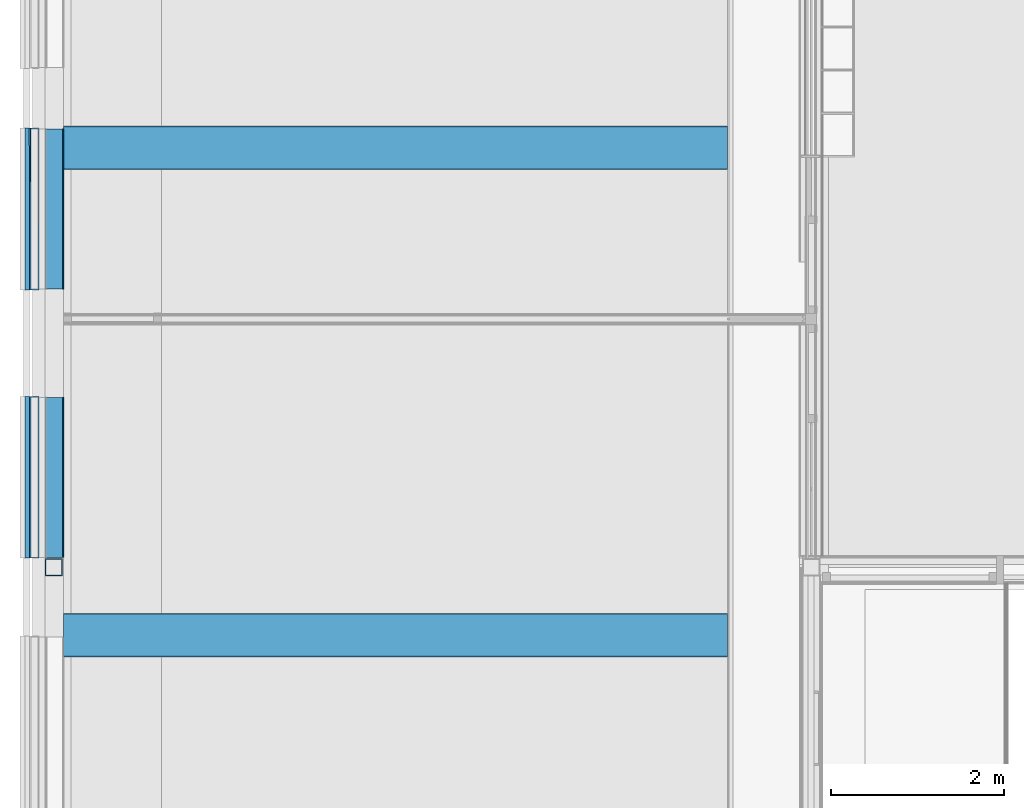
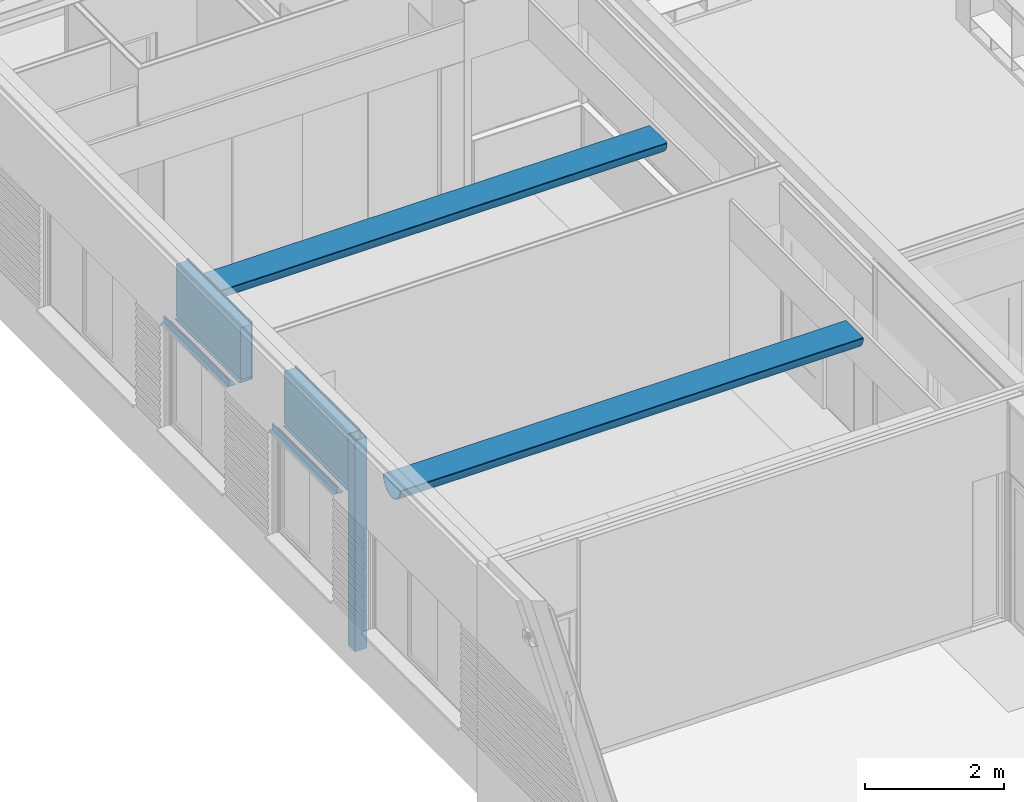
# One storey, part 56 of 137: 15 building element parts, 7 elements without a shape of their own.
"""IFC2X3 building model written with IfcOpenShell, lengths in millimetres."""

import ifcopenshell
import ifcopenshell.guid

model = None  # the IFC model being written
_history = None  # IfcOwnerHistory: only IFC2X3 demands one
_inside = {}  # id of a spatial element -> (the spatial element, [elements in it])
_under = {}  # id of a project, library or spatial element -> (it, [spatial elements below it])
_declared = {}  # id of a project -> (the project, [libraries it declares])
_typed = {}  # id of a type object -> (the type object, [elements of that type])
_made_of = {}  # id of a material, layer set ... -> (it, [elements and type objects made of it])


def new_model(schema):
    """Start an empty IFC model of exactly this schema.

    Asked for "IFC4X3", IfcOpenShell would pick the latest addendum, in which some entities
    have other attributes; the version numbers below select the first issue.
    IFC2X3 requires an IfcOwnerHistory on every rooted entity: one is made here for all.
    """
    global model, _history
    if schema == "IFC4X3":
        model = ifcopenshell.file(schema_version=(4, 3, 0, 0))
    else:
        model = ifcopenshell.file(schema=schema)
    _inside.clear()
    _under.clear()
    _declared.clear()
    _typed.clear()
    _made_of.clear()
    _history = None
    if model.schema == "IFC2X3":
        org = make("IfcOrganization", Name="unknown")
        user = make(
            "IfcPersonAndOrganization",
            ThePerson=make("IfcPerson", FamilyName="unknown"),
            TheOrganization=org,
        )
        app = make(
            "IfcApplication",
            ApplicationDeveloper=org,
            Version="unknown",
            ApplicationFullName="unknown",
            ApplicationIdentifier="unknown",
        )
        _history = make(
            "IfcOwnerHistory",
            OwningUser=user,
            OwningApplication=app,
            ChangeAction="ADDED",
            CreationDate=0,
        )
    return model


def make(cls, **values):
    """One entity of the class cls with the attributes given. An attribute that is None is left unset."""
    return model.create_entity(
        cls, **{name: value for name, value in values.items() if value is not None}
    )


def entity(cls, *values):
    """Any entity or typed value of the class cls, its attributes in the order of the schema. None: left unset."""
    e = model.create_entity(cls)
    for i, value in enumerate(values):
        if value is not None:
            e[i] = value
    return e


def rooted(cls, **values):
    """An entity with a GlobalId (a new one), such as an element, a storey or a relation."""
    return make(cls, GlobalId=ifcopenshell.guid.new(), OwnerHistory=_history, **values)


def si_unit(unit_type, name, prefix=None):
    """IfcSIUnit, for example si_unit("LENGTHUNIT", "METRE", prefix="MILLI")."""
    return make("IfcSIUnit", UnitType=unit_type, Prefix=prefix, Name=name)


def converted_unit(unit_type, name, factor, base, dimensions=None, offset=None):
    """IfcConversionBasedUnit, such as the inch: factor (a typed value) times the base unit."""
    return make(
        "IfcConversionBasedUnit"
        if offset is None
        else "IfcConversionBasedUnitWithOffset",
        ConversionOffset=offset,
        Dimensions=None
        if dimensions is None
        else entity("IfcDimensionalExponents", *dimensions),
        UnitType=unit_type,
        Name=name,
        ConversionFactor=make(
            "IfcMeasureWithUnit", ValueComponent=factor, UnitComponent=base
        ),
    )


def derived_unit(unit_type, elements):
    """IfcDerivedUnit: a product of units, each with its exponent."""
    return make(
        "IfcDerivedUnit",
        Elements=[
            make("IfcDerivedUnitElement", Unit=unit, Exponent=power)
            for unit, power in elements
        ],
        UnitType=unit_type,
    )


def money_unit(currency):
    """IfcMonetaryUnit."""
    return make("IfcMonetaryUnit", Currency=currency)


def assignment(units):
    """IfcUnitAssignment: the units of a project."""
    return None if units is None else make("IfcUnitAssignment", Units=units)


def point(xyz):
    """IfcCartesianPoint."""
    return None if xyz is None else make("IfcCartesianPoint", Coordinates=xyz)


def direction(xyz):
    """IfcDirection."""
    return None if xyz is None else make("IfcDirection", DirectionRatios=xyz)


def frame(location, z_axis=None, x_axis=None):
    """IfcAxis2Placement3D, a coordinate frame: its origin and axes. An axis left out is left unset."""
    return make(
        "IfcAxis2Placement3D",
        Location=point(location),
        Axis=direction(z_axis),
        RefDirection=direction(x_axis),
    )


def origin_with_axes():
    """The frame at (0, 0, 0) with the z axis (0, 0, 1) and the x axis (1, 0, 0) written out."""
    return frame((0.0, 0.0, 0.0), z_axis=(0.0, 0.0, 1.0), x_axis=(1.0, 0.0, 0.0))


def place(relative_to, where):
    """IfcLocalPlacement: puts the frame where relative to a parent placement (None: the world)."""
    return make(
        "IfcLocalPlacement", PlacementRelTo=relative_to, RelativePlacement=where
    )


def context(
    kind, dimensions, precision=None, world=None, true_north=None, identifier=None
):
    """IfcGeometricRepresentationContext, for example the 3D "Model" context."""
    return make(
        "IfcGeometricRepresentationContext",
        ContextIdentifier=identifier,
        ContextType=kind,
        CoordinateSpaceDimension=dimensions,
        Precision=precision,
        WorldCoordinateSystem=world,
        TrueNorth=true_north,
    )


def subcontext(parent, identifier, kind, view, scale=None):
    """IfcGeometricRepresentationSubContext, for example "Body" below "Model"."""
    return make(
        "IfcGeometricRepresentationSubContext",
        ContextIdentifier=identifier,
        ContextType=kind,
        ParentContext=parent,
        TargetScale=scale,
        TargetView=view,
    )


def project(units=None, contexts=None):
    """IfcProject with its units and contexts."""
    return rooted(
        "IfcProject",
        Name="project",
        RepresentationContexts=contexts,
        UnitsInContext=assignment(units),
    )


def spatial(cls, under=None, at=None, **own):
    """A site, building, storey or space (cls), placed at a placement, below another one or the project."""
    s = rooted(cls, ObjectPlacement=at, **own)
    if under is not None:
        _under.setdefault(under.id(), (under, []))[1].append(s)
    return s


def faces_of(points, faces, orient=None, outer=None):
    """IfcFace entities. A face is a list of loops; a loop is a list of indices into points, from 0.

    orient and outer hold one flag for each loop. By default every Orientation is true, the
    first loop of a face is its IfcFaceOuterBound and the others are IfcFaceBound.
    """
    made = []
    for i, loops in enumerate(faces):
        bounds = []
        for j, loop in enumerate(loops):
            is_outer = j == 0 if outer is None else outer[i][j]
            bounds.append(
                make(
                    "IfcFaceOuterBound" if is_outer else "IfcFaceBound",
                    Bound=make("IfcPolyLoop", Polygon=[points[k] for k in loop]),
                    Orientation=True if orient is None else orient[i][j],
                )
            )
        made.append(make("IfcFace", Bounds=bounds))
    return made


def faceted_brep(points, faces, orient=None, outer=None, voids=None):
    """IfcFacetedBrep: a solid bounded by flat faces; with voids (closed shells), ...WithVoids."""
    shared = [point(p) for p in points]
    hull = make("IfcClosedShell", CfsFaces=faces_of(shared, faces, orient, outer))
    if voids is None:
        return make("IfcFacetedBrep", Outer=hull)
    return make(
        "IfcFacetedBrepWithVoids",
        Outer=hull,
        Voids=[
            make(cls, CfsFaces=faces_of(shared, fs, o, b)) for cls, fs, o, b in voids
        ],
    )


def shape(context_of_items, identifier, shape_type, items):
    """IfcShapeRepresentation: the items that make up one representation, for example the "Body"."""
    return make(
        "IfcShapeRepresentation",
        ContextOfItems=context_of_items,
        RepresentationIdentifier=identifier,
        RepresentationType=shape_type,
        Items=items,
    )


def material(Name=None, Category=None):
    """IfcMaterial."""
    return make("IfcMaterial", Name=Name, Category=Category)


def made_of(thing, what):
    """Note that an element or type object is made of a material, layer set ...; save() writes the relation."""
    if what is not None:
        _made_of.setdefault(what.id(), (what, []))[1].append(thing)
    return thing


def type_object(cls, material=None, **own):
    """A type object (cls), such as IfcWallType, which elements share."""
    return made_of(rooted(cls, **own), material)


def element(
    cls,
    number,
    at=None,
    inside=None,
    cuts=None,
    type_object=None,
    material=None,
    context=None,
    identifier="Body",
    shape_type=None,
    held_by="IfcProductDefinitionShape",
    body=None,
    shapes=None,
    **own,
):
    """One element of the class cls, such as IfcWall. Its Tag is "e" and its number.

    at: its placement. inside: the storey or other place that contains it. cuts: it is an
    opening in that element (IfcRelVoidsElement). A single representation is given by context,
    identifier, shape_type and body (its items); several are given by shapes. held_by: the class
    of the entity that holds the representations. save() writes the other relations.
    """
    e = rooted(cls, Tag="e%d" % number, ObjectPlacement=at, **own)
    if body is not None:
        shapes = [shape(context, identifier, shape_type, body)]
    if shapes is not None:
        e.Representation = make(held_by, Representations=shapes)
    if inside is not None:
        _inside.setdefault(inside.id(), (inside, []))[1].append(e)
    if cuts is not None:
        rooted(
            "IfcRelVoidsElement", RelatingBuildingElement=cuts, RelatedOpeningElement=e
        )
    if type_object is not None:
        _typed.setdefault(type_object.id(), (type_object, []))[1].append(e)
    return made_of(e, material)


def aggregate(whole, parts):
    """IfcRelAggregates: a whole, such as a stair, and the parts it consists of."""
    return rooted("IfcRelAggregates", RelatingObject=whole, RelatedObjects=parts)


def save(model, path):
    """Write the relations noted so far, then the file.

    IfcRelAggregates (storeys below a building ...), IfcRelContainedInSpatialStructure (elements
    in a storey), IfcRelDefinesByType, IfcRelAssociatesMaterial and IfcRelDeclares: one each for
    every whole, place, type object, material and project.
    """
    for whole, parts in _under.values():
        aggregate(whole, parts)
    for where, things in _inside.values():
        rooted(
            "IfcRelContainedInSpatialStructure",
            RelatedElements=things,
            RelatingStructure=where,
        )
    for kind, things in _typed.values():
        rooted("IfcRelDefinesByType", RelatedObjects=things, RelatingType=kind)
    for what, things in _made_of.values():
        rooted("IfcRelAssociatesMaterial", RelatedObjects=things, RelatingMaterial=what)
    for by, libraries in _declared.values():
        rooted("IfcRelDeclares", RelatingContext=by, RelatedDefinitions=libraries)
    model.write(path)


model = new_model("IFC2X3")

# Units and contexts
model_context = context("Model", 3, precision=0.01, world=origin_with_axes(), true_north=direction((0.0, 1.0)))
body_context = subcontext(model_context, "Body", "Model", "MODEL_VIEW")
ifc_project = project(units=[si_unit("LENGTHUNIT", "METRE", prefix="MILLI"), si_unit("AREAUNIT", "SQUARE_METRE"), si_unit("VOLUMEUNIT", "CUBIC_METRE"), converted_unit("PLANEANGLEUNIT", "DEGREE", entity("IfcPlaneAngleMeasure", 0.0174532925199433), si_unit("PLANEANGLEUNIT", "RADIAN"), dimensions=[0, 0, 0, 0, 0, 0, 0]), money_unit("EUR"), converted_unit("TIMEUNIT", "Year", entity("IfcTimeMeasure", 31556926.0), si_unit("TIMEUNIT", "SECOND"), dimensions=[0, 0, 1, 0, 0, 0, 0]), si_unit("MASSUNIT", "GRAM", prefix="KILO"), si_unit("THERMODYNAMICTEMPERATUREUNIT", "DEGREE_CELSIUS"), si_unit("LUMINOUSINTENSITYUNIT", "LUMEN"), si_unit("ENERGYUNIT", "JOULE", prefix="MEGA"), derived_unit("THERMALCONDUCTANCEUNIT", [(si_unit("POWERUNIT", "WATT"), 1), (si_unit("LENGTHUNIT", "METRE"), -1), (si_unit("THERMODYNAMICTEMPERATUREUNIT", "KELVIN"), -1)]), derived_unit("SPECIFICHEATCAPACITYUNIT", [(si_unit("ENERGYUNIT", "JOULE"), 1), (si_unit("MASSUNIT", "GRAM", prefix="KILO"), -1), (si_unit("THERMODYNAMICTEMPERATUREUNIT", "KELVIN"), -1)]), derived_unit("MASSDENSITYUNIT", [(si_unit("MASSUNIT", "GRAM", prefix="KILO"), 1), (si_unit("VOLUMEUNIT", "CUBIC_METRE"), -1)])], contexts=[model_context])

# Site, building, storey
site_placement = place(None, origin_with_axes())
site = spatial("IfcSite", under=ifc_project, at=site_placement, Name="Site", CompositionType="ELEMENT")
building_placement = place(site_placement, origin_with_axes())
building = spatial("IfcBuilding", under=site, at=building_placement, Name="Naam gebouw", CompositionType="ELEMENT")
storey_placement = place(building_placement, frame((0.0, 0.0, 3960.0), z_axis=(0.0, 0.0, 1.0), x_axis=(1.0, 0.0, 0.0)))
storey = spatial("IfcBuildingStorey", under=building, at=storey_placement, Name="1e verdieping", CompositionType="ELEMENT", Elevation=3960.0)

# Column, building element part
column_type = type_object("IfcColumnType", Name="200X200X10 200 x 200", PredefinedType="COLUMN")
column_placement = place(storey_placement, frame((99.99999999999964, 10810.00011055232, -100.0000000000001), z_axis=(0.0, 0.0, 1.0), x_axis=(1.0, 0.0, 0.0)))
column = element("IfcColumn", 1, at=column_placement, inside=storey, type_object=column_type, Name="28_Kolom-x", ObjectType="COLUMN")
ifc_material_1 = material(Name="Metaal - Staal C")
building_element_part_1_placement = place(column_placement, origin_with_axes())
building_element_part_1 = element("IfcBuildingElementPart", 2, at=building_element_part_1_placement, material=ifc_material_1, Name="Metaal - Staal C", context=body_context, shape_type="Brep", body=[
    faceted_brep([(-100.0, -99.99999999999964, 0.0), (100.0, -99.99999999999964, 0.0), (100.0, -99.99999999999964, 3699.999999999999), (-100.0, -99.99999999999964, 3699.999999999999), (-100.0, 99.99999999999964, 0.0), (100.0, 99.99999999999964, 0.0), (-90.00000000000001, -89.99999999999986, 0.0), (90.00000000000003, -89.99999999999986, 0.0), (90.00000000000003, 89.99999999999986, 0.0), (-90.00000000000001, 89.99999999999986, 0.0), (100.0, 99.99999999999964, 3699.999999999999), (-100.0, 99.99999999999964, 3699.999999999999), (-90.00000000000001, -89.99999999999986, 3699.999999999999), (-90.00000000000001, 89.99999999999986, 3699.999999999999), (90.00000000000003, 89.99999999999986, 3699.999999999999), (90.00000000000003, -89.99999999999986, 3699.999999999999)], [[[0, 1, 2, 3]], [[0, 4, 5, 1], [6, 7, 8, 9]], [[1, 5, 10, 2]], [[3, 2, 10, 11], [12, 13, 14, 15]], [[4, 0, 3, 11]], [[5, 4, 11, 10]], [[7, 6, 12, 15]], [[8, 7, 15, 14]], [[9, 8, 14, 13]], [[6, 9, 13, 12]]]),
])
aggregate(column, [building_element_part_1])

# Beam, building element parts
beam_type_1 = type_object("IfcBeamType", Name="41 Latei/geveldrager 158 x 112", PredefinedType="BEAM")
beam_1_placement = place(storey_placement, frame((-180.0000000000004, 14014.99980396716, 2610.0), z_axis=(0.0, 0.0, 1.0), x_axis=(0.9999982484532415, 0.001871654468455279, 0.0)))
beam_1 = element("IfcBeam", 3, at=beam_1_placement, inside=storey, type_object=beam_type_1, Name="_Regenwaterafvoer-x", ObjectType="BEAM")
building_element_part_2_placement = place(beam_1_placement, origin_with_axes())
building_element_part_2 = element("IfcBuildingElementPart", 4, at=building_element_part_2_placement, material=ifc_material_1, Name="Metaal - Staal C", context=body_context, shape_type="Brep", body=[
    faceted_brep([(-49.99999999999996, 1870.003282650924, 6.55651533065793e-07), (-49.99999999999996, 1870.003282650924, -3.000000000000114), (-49.99999999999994, 0.0, -3.000000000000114), (-49.99999999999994, 0.0, 6.55651533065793e-07), (-5.960465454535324e-08, 1870.003282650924, 6.55651533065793e-07), (-5.960468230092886e-08, 1870.003282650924, 99.3417707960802), (16.54654975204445, 1870.003282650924, 108.8949262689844), (18.04655007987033, 1870.003282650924, 106.2968498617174), (3.000000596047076, 1870.003282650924, 96.99999988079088), (3.000000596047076, 1870.003282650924, 6.55651533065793e-07), (3.000000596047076, 1870.003282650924, -3.000000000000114), (3.000000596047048, 0.0, -3.000000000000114), (3.000000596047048, 0.0, 6.55651533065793e-07), (3.000000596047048, 0.0, 96.99999988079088), (18.04655007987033, 0.0, 106.2968498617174), (16.54654975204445, 0.0, 108.8949262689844), (-5.960465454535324e-08, 0.0, 99.3417707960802), (-5.960465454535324e-08, 0.0, 6.55651533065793e-07)], [[[0, 1, 2, 3]], [[0, 4, 5, 6, 7, 8, 9, 10, 1]], [[1, 10, 11, 2]], [[3, 2, 11, 12, 13, 14, 15, 16, 17]], [[4, 0, 3, 17]], [[5, 4, 17, 16]], [[6, 5, 16, 15]], [[7, 6, 15, 14]], [[8, 7, 14, 13]], [[9, 8, 13, 12]], [[10, 9, 12, 11]]]),
])
building_element_part_3_placement = place(beam_1_placement, origin_with_axes())
building_element_part_3 = element("IfcBuildingElementPart", 5, at=building_element_part_3_placement, material=ifc_material_1, Name="Metaal - Staal C", context=body_context, shape_type="Brep", body=[
    faceted_brep([(3.000000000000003, 1870.003282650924, -3.000000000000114), (108.0, 1870.003282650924, -3.000000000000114), (108.0, 0.0, -3.000000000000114), (3.00000000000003, 0.0, -3.000000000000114), (3.000000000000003, 1870.003282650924, 0.0), (108.0, 1870.003282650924, 0.0), (108.0, 0.0, 0.0), (3.00000000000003, 0.0, 0.0)], [[[0, 1, 2, 3]], [[0, 4, 5, 1]], [[1, 5, 6, 2]], [[3, 2, 6, 7]], [[4, 0, 3, 7]], [[5, 4, 7, 6]]]),
])
aggregate(beam_1, [building_element_part_2, building_element_part_3])

beam_2_placement = place(storey_placement, frame((-180.0001274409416, 10915.00011055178, 2610.0), z_axis=(0.0, 0.0, 1.0), x_axis=(1.0, 0.0, 0.0)))
beam_2 = element("IfcBeam", 6, at=beam_2_placement, inside=storey, type_object=beam_type_1, Name="_Regenwaterafvoer-x", ObjectType="BEAM")
building_element_part_4_placement = place(beam_2_placement, origin_with_axes())
building_element_part_4 = element("IfcBuildingElementPart", 7, at=building_element_part_4_placement, material=ifc_material_1, Name="Metaal - Staal C", context=body_context, shape_type="Brep", body=[
    faceted_brep([(3.000000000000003, 1870.000000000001, -3.000000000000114), (108.0, 1870.000000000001, -3.000000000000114), (108.0, 0.0, -3.000000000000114), (3.000000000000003, 0.0, -3.000000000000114), (3.000000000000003, 1870.000000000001, 0.0), (108.0, 1870.000000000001, 0.0), (108.0, 0.0, 0.0), (3.000000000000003, 0.0, 0.0)], [[[0, 1, 2, 3]], [[0, 4, 5, 1]], [[1, 5, 6, 2]], [[3, 2, 6, 7]], [[4, 0, 3, 7]], [[5, 4, 7, 6]]]),
])
building_element_part_5_placement = place(beam_2_placement, origin_with_axes())
building_element_part_5 = element("IfcBuildingElementPart", 8, at=building_element_part_5_placement, material=ifc_material_1, Name="Metaal - Staal C", context=body_context, shape_type="Brep", body=[
    faceted_brep([(-49.99999999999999, 1870.000000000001, 6.55651533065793e-07), (-49.99999999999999, 1870.000000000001, -3.000000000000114), (-49.99999999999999, 0.0, -3.000000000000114), (-49.99999999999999, 0.0, 6.55651533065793e-07), (-5.960468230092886e-08, 1870.000000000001, 6.55651533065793e-07), (-5.960468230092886e-08, 1870.000000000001, 99.3417707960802), (16.54654975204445, 1870.000000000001, 108.8949262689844), (18.04655007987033, 1870.000000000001, 106.2968498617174), (3.000000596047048, 1870.000000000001, 96.99999988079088), (3.000000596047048, 1870.000000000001, 6.55651533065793e-07), (3.000000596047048, 1870.000000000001, -3.000000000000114), (3.000000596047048, 0.0, -3.000000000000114), (3.000000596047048, 0.0, 6.55651533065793e-07), (3.000000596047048, 0.0, 96.99999988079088), (18.04655007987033, 0.0, 106.2968498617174), (16.54654975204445, 0.0, 108.8949262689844), (-5.960468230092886e-08, 0.0, 99.3417707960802), (-5.960468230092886e-08, 0.0, 6.55651533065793e-07)], [[[0, 1, 2, 3]], [[0, 4, 5, 6, 7, 8, 9, 10, 1]], [[1, 10, 11, 2]], [[3, 2, 11, 12, 13, 14, 15, 16, 17]], [[4, 0, 3, 17]], [[5, 4, 17, 16]], [[6, 5, 16, 15]], [[7, 6, 15, 14]], [[8, 7, 14, 13]], [[9, 8, 13, 12]], [[10, 9, 12, 11]]]),
])
aggregate(beam_2, [building_element_part_4, building_element_part_5])

beam_type_2 = type_object("IfcBeamType", Name="31 HSB boven kozijnen 214 x 1000", PredefinedType="BEAM")
beam_3_placement = place(storey_placement, frame((214.0000000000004, 10925.00011055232, 2600.000000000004), z_axis=(0.0, 0.0, 1.0), x_axis=(1.0, 0.0, 0.0)))
beam_3 = element("IfcBeam", 9, at=beam_3_placement, inside=storey, type_object=beam_type_2, Name="28_Balk-x", ObjectType="BEAM")
ifc_material_2 = material(Name="Gipsplaat")
building_element_part_6_placement = place(beam_3_placement, origin_with_axes())
building_element_part_6 = element("IfcBuildingElementPart", 10, at=building_element_part_6_placement, material=ifc_material_2, Name="Gipsplaat", context=body_context, shape_type="Brep", body=[
    faceted_brep([(-214.0000025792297, 1850.0, 12.00000596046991), (-214.0000025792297, 1850.0, 0.0), (-214.0000025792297, 0.0, 0.0), (-214.0000025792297, 0.0, 12.00000596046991), (-11.99999661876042, 1850.0, 12.00000596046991), (-11.99999661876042, 1850.0, 0.0), (-11.99999661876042, 0.0, 0.0), (-11.99999661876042, 0.0, 12.00000596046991)], [[[0, 1, 2, 3]], [[0, 4, 5, 1]], [[1, 5, 6, 2]], [[3, 2, 6, 7]], [[4, 0, 3, 7]], [[5, 4, 7, 6]]]),
])
building_element_part_7_placement = place(beam_3_placement, origin_with_axes())
building_element_part_7 = element("IfcBuildingElementPart", 11, at=building_element_part_7_placement, material=ifc_material_2, Name="Gipsplaat", context=body_context, shape_type="Brep", body=[
    faceted_brep([(-11.99999661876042, 1850.0, 0.0), (9.34170968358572e-06, 1850.0, 0.0), (9.34170968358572e-06, 0.0, 0.0), (-11.99999661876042, 0.0, 0.0), (-11.99999661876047, 1850.0, 999.9999999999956), (9.341709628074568e-06, 1850.0, 999.9999999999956), (9.341709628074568e-06, 0.0, 999.9999999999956), (-11.99999661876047, 0.0, 999.9999999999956)], [[[0, 1, 2, 3]], [[0, 4, 5, 1]], [[1, 5, 6, 2]], [[3, 2, 6, 7]], [[4, 0, 3, 7]], [[5, 4, 7, 6]]]),
])
ifc_material_3 = material(Name="ALG - ISOLATIE")
building_element_part_8_placement = place(beam_3_placement, origin_with_axes())
building_element_part_8 = element("IfcBuildingElementPart", 12, at=building_element_part_8_placement, material=ifc_material_3, Name="ALG - ISOLATIE", context=body_context, shape_type="Brep", body=[
    faceted_brep([(-11.99999999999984, 1850.0, 49.99999999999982), (-11.9999999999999, 1850.0, 961.9999999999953), (-11.9999999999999, 0.0, 961.9999999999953), (-11.99999999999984, 0.0, 49.99999999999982), (-195.9999999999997, 1850.0, 49.99999999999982), (-195.9999999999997, 1850.0, 961.9999999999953), (-195.9999999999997, 0.0, 961.9999999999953), (-195.9999999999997, 0.0, 49.99999999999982)], [[[0, 1, 2, 3]], [[0, 4, 5, 1]], [[1, 5, 6, 2]], [[3, 2, 6, 7]], [[4, 0, 3, 7]], [[5, 4, 7, 6]]]),
])
aggregate(beam_3, [building_element_part_6, building_element_part_7, building_element_part_8])

beam_4_placement = place(storey_placement, frame((214.0000000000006, 14024.9998112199, 2600.000000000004), z_axis=(0.0, 0.0, 1.0), x_axis=(1.0, 0.0, 0.0)))
beam_4 = element("IfcBeam", 13, at=beam_4_placement, inside=storey, type_object=beam_type_2, Name="28_Balk-x", ObjectType="BEAM")
building_element_part_9_placement = place(beam_4_placement, origin_with_axes())
building_element_part_9 = element("IfcBuildingElementPart", 14, at=building_element_part_9_placement, material=ifc_material_2, Name="Gipsplaat", context=body_context, shape_type="Brep", body=[
    faceted_brep([(-11.99999661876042, 1850.000000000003, 0.0), (9.34170968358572e-06, 1850.000000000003, 0.0), (9.34170968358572e-06, 0.0, 0.0), (-11.99999661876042, 0.0, 0.0), (-11.99999661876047, 1850.000000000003, 999.9999999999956), (9.341709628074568e-06, 1850.000000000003, 999.9999999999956), (9.341709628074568e-06, 0.0, 999.9999999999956), (-11.99999661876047, 0.0, 999.9999999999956)], [[[0, 1, 2, 3]], [[0, 4, 5, 1]], [[1, 5, 6, 2]], [[3, 2, 6, 7]], [[4, 0, 3, 7]], [[5, 4, 7, 6]]]),
])
building_element_part_10_placement = place(beam_4_placement, origin_with_axes())
building_element_part_10 = element("IfcBuildingElementPart", 15, at=building_element_part_10_placement, material=ifc_material_2, Name="Gipsplaat", context=body_context, shape_type="Brep", body=[
    faceted_brep([(-214.0000025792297, 1850.000000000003, 12.00000596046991), (-214.0000025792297, 1850.000000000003, 0.0), (-214.0000025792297, 0.0, 0.0), (-214.0000025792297, 0.0, 12.00000596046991), (-11.99999661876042, 1850.000000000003, 12.00000596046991), (-11.99999661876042, 1850.000000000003, 0.0), (-11.99999661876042, 0.0, 0.0), (-11.99999661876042, 0.0, 12.00000596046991)], [[[0, 1, 2, 3]], [[0, 4, 5, 1]], [[1, 5, 6, 2]], [[3, 2, 6, 7]], [[4, 0, 3, 7]], [[5, 4, 7, 6]]]),
])
building_element_part_11_placement = place(beam_4_placement, origin_with_axes())
building_element_part_11 = element("IfcBuildingElementPart", 16, at=building_element_part_11_placement, material=ifc_material_3, Name="ALG - ISOLATIE", context=body_context, shape_type="Brep", body=[
    faceted_brep([(-11.99999999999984, 1850.000000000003, 49.99999999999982), (-11.9999999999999, 1850.000000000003, 961.9999999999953), (-11.9999999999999, 0.0, 961.9999999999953), (-11.99999999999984, 0.0, 49.99999999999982), (-195.9999999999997, 1850.000000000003, 49.99999999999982), (-195.9999999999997, 1850.000000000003, 961.9999999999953), (-195.9999999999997, 0.0, 961.9999999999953), (-195.9999999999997, 0.0, 49.99999999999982)], [[[0, 1, 2, 3]], [[0, 4, 5, 1]], [[1, 5, 6, 2]], [[3, 2, 6, 7]], [[4, 0, 3, 7]], [[5, 4, 7, 6]]]),
])
aggregate(beam_4, [building_element_part_9, building_element_part_10, building_element_part_11])

# Beam, building element part
beam_type_3 = type_object("IfcBeamType", Name="Luchtzakken 500mm 500 x 265", PredefinedType="BEAM")
beam_5_placement = place(storey_placement, frame((214.0000000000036, 15657.50023396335, 3200.0), z_axis=(0.0, 0.0, 1.0), x_axis=(0.0, -1.0, 0.0)))
beam_5 = element("IfcBeam", 17, at=beam_5_placement, inside=storey, type_object=beam_type_3, Name="_Regenwaterafvoer-x", ObjectType="BEAM")
ifc_material_4 = material(Name="ALG - ALGEMEEN")
building_element_part_12_placement = place(beam_5_placement, origin_with_axes())
building_element_part_12 = element("IfcBuildingElementPart", 18, at=building_element_part_12_placement, material=ifc_material_4, Name="ALG - ALGEMEEN", context=body_context, shape_type="Brep", body=[
    faceted_brep([(-250.0, 7673.500000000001, 0.0), (-246.2019382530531, 7673.500000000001, -43.41204441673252), (-246.2019382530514, 0.0, -43.41204441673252), (-250.0, 0.0, 0.0), (-240.0000000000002, 7673.500000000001, 0.0), (-236.3538607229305, 7673.500000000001, -41.67556264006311), (-225.5262289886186, 7673.500000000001, -82.08483439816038), (-207.8460969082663, 7673.500000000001, -120.0000000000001), (-183.8506663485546, 7673.500000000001, -154.2690263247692), (-154.2690263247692, 7673.500000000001, -183.8506663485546), (-120.000000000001, 7673.500000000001, -207.8460969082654), (-82.08483439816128, 7673.500000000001, -225.5262289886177), (-41.675562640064, 7673.500000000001, -236.3538607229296), (0.0, 7673.500000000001, -240.0000000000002), (41.67556264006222, 7673.500000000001, -236.3538607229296), (82.0848343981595, 7673.500000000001, -225.5262289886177), (119.9999999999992, 7673.500000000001, -207.8460969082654), (154.2690263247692, 7673.500000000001, -183.8506663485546), (183.8506663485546, 7673.500000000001, -154.2690263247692), (207.8460969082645, 7673.500000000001, -120.0000000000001), (225.5262289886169, 7673.500000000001, -82.08483439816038), (236.3538607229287, 7673.500000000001, -41.67556264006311), (240.0000000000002, 7673.500000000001, 0.0), (250.0, 7673.500000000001, 0.0), (246.2019382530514, 7673.500000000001, -43.41204441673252), (234.9231551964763, 7673.500000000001, -85.50503583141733), (216.5063509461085, 7673.500000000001, -125.0), (191.5111107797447, 7673.500000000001, -160.6969024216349), (160.696902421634, 7673.500000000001, -191.5111107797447), (125.0, 7673.500000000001, -216.5063509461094), (85.50503583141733, 7673.500000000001, -234.9231551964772), (43.41204441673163, 7673.500000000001, -246.2019382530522), (0.0, 7673.500000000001, -250.0), (-43.41204441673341, 7673.500000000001, -246.2019382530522), (-85.50503583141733, 7673.500000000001, -234.9231551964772), (-125.0, 7673.500000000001, -216.5063509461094), (-160.6969024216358, 7673.500000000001, -191.5111107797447), (-191.5111107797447, 7673.500000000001, -160.6969024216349), (-216.5063509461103, 7673.500000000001, -125.0), (-234.9231551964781, 7673.500000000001, -85.50503583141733), (-234.9231551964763, 0.0, -85.50503583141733), (-216.5063509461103, 0.0, -125.0), (-191.5111107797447, 0.0, -160.6969024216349), (-160.696902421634, 0.0, -191.5111107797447), (-125.0, 0.0, -216.5063509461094), (-85.50503583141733, 0.0, -234.9231551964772), (-43.41204441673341, 0.0, -246.2019382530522), (0.0, 0.0, -250.0), (43.41204441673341, 0.0, -246.2019382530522), (85.50503583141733, 0.0, -234.9231551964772), (125.0, 0.0, -216.5063509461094), (160.696902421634, 0.0, -191.5111107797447), (191.5111107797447, 0.0, -160.6969024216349), (216.5063509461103, 0.0, -125.0), (234.9231551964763, 0.0, -85.50503583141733), (246.2019382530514, 0.0, -43.41204441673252), (250.0, 0.0, 0.0), (240.0000000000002, 0.0, 0.0), (236.3538607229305, 0.0, -41.67556264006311), (225.5262289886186, 0.0, -82.08483439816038), (207.8460969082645, 0.0, -120.0000000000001), (183.8506663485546, 0.0, -154.2690263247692), (154.2690263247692, 0.0, -183.8506663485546), (119.9999999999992, 0.0, -207.8460969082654), (82.08483439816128, 0.0, -225.5262289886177), (41.675562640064, 0.0, -236.3538607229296), (0.0, 0.0, -240.0000000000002), (-41.675562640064, 0.0, -236.3538607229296), (-82.08483439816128, 0.0, -225.5262289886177), (-119.9999999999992, 0.0, -207.8460969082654), (-154.2690263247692, 0.0, -183.8506663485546), (-183.8506663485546, 0.0, -154.2690263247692), (-207.8460969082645, 0.0, -120.0000000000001), (-225.5262289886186, 0.0, -82.08483439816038), (-236.3538607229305, 0.0, -41.67556264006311), (-240.0000000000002, 0.0, 0.0)], [[[0, 1, 2, 3]], [[0, 4, 5, 6, 7, 8, 9, 10, 11, 12, 13, 14, 15, 16, 17, 18, 19, 20, 21, 22, 23, 24, 25, 26, 27, 28, 29, 30, 31, 32, 33, 34, 35, 36, 37, 38, 39, 1]], [[1, 39, 40, 2]], [[3, 2, 40, 41, 42, 43, 44, 45, 46, 47, 48, 49, 50, 51, 52, 53, 54, 55, 56, 57, 58, 59, 60, 61, 62, 63, 64, 65, 66, 67, 68, 69, 70, 71, 72, 73, 74, 75]], [[4, 0, 3, 75]], [[5, 4, 75, 74]], [[6, 5, 74, 73]], [[7, 6, 73, 72]], [[8, 7, 72, 71]], [[9, 8, 71, 70]], [[10, 9, 70, 69]], [[11, 10, 69, 68]], [[12, 11, 68, 67]], [[13, 12, 67, 66]], [[14, 13, 66, 65]], [[15, 14, 65, 64]], [[16, 15, 64, 63]], [[17, 16, 63, 62]], [[18, 17, 62, 61]], [[19, 18, 61, 60]], [[20, 19, 60, 59]], [[21, 20, 59, 58]], [[22, 21, 58, 57]], [[23, 22, 57, 56]], [[24, 23, 56, 55]], [[25, 24, 55, 54]], [[26, 25, 54, 53]], [[27, 26, 53, 52]], [[28, 27, 52, 51]], [[29, 28, 51, 50]], [[30, 29, 50, 49]], [[31, 30, 49, 48]], [[32, 31, 48, 47]], [[33, 32, 47, 46]], [[34, 33, 46, 45]], [[35, 34, 45, 44]], [[36, 35, 44, 43]], [[37, 36, 43, 42]], [[38, 37, 42, 41]], [[39, 38, 41, 40]]]),
])

# Beam, building element parts
beam_6_placement = place(storey_placement, frame((214.0000000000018, 10025.00023396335, 3200.0), z_axis=(0.0, 0.0, 1.0), x_axis=(0.0, -1.0, 0.0)))
beam_6 = element("IfcBeam", 19, at=beam_6_placement, inside=storey, type_object=beam_type_3, Name="_Regenwaterafvoer-x", ObjectType="BEAM")
building_element_part_13_placement = place(beam_6_placement, origin_with_axes())
building_element_part_13 = element("IfcBuildingElementPart", 20, at=building_element_part_13_placement, material=ifc_material_4, Name="ALG - ALGEMEEN", context=body_context, shape_type="Brep", body=[
    faceted_brep([(-250.0, 7673.500000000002, 0.0), (-246.2019382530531, 7673.500000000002, -43.41204441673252), (-246.2019382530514, 0.0, -43.41204441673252), (-250.0, 0.0, 0.0), (-240.0000000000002, 7673.500000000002, 0.0), (-236.3538607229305, 7673.500000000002, -41.67556264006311), (-225.5262289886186, 7673.500000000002, -82.08483439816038), (-207.8460969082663, 7673.500000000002, -120.0000000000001), (-183.8506663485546, 7673.500000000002, -154.2690263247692), (-154.2690263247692, 7673.500000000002, -183.8506663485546), (-120.000000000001, 7673.500000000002, -207.8460969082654), (-82.08483439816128, 7673.500000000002, -225.5262289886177), (-41.675562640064, 7673.500000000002, -236.3538607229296), (0.0, 7673.500000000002, -240.0000000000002), (41.67556264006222, 7673.500000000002, -236.3538607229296), (82.0848343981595, 7673.500000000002, -225.5262289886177), (119.9999999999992, 7673.500000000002, -207.8460969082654), (154.2690263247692, 7673.500000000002, -183.8506663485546), (183.8506663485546, 7673.500000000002, -154.2690263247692), (207.8460969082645, 7673.500000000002, -120.0000000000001), (225.5262289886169, 7673.500000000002, -82.08483439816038), (236.3538607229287, 7673.500000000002, -41.67556264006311), (240.0000000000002, 7673.500000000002, 0.0), (250.0, 7673.500000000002, 0.0), (246.2019382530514, 7673.500000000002, -43.41204441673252), (234.9231551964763, 7673.500000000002, -85.50503583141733), (216.5063509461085, 7673.500000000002, -125.0), (191.5111107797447, 7673.500000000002, -160.6969024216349), (160.696902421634, 7673.500000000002, -191.5111107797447), (125.0, 7673.500000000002, -216.5063509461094), (85.50503583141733, 7673.500000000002, -234.9231551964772), (43.41204441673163, 7673.500000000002, -246.2019382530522), (0.0, 7673.500000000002, -250.0), (-43.41204441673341, 7673.500000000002, -246.2019382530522), (-85.50503583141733, 7673.500000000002, -234.9231551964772), (-125.0, 7673.500000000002, -216.5063509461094), (-160.6969024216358, 7673.500000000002, -191.5111107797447), (-191.5111107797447, 7673.500000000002, -160.6969024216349), (-216.5063509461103, 7673.500000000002, -125.0), (-234.9231551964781, 7673.500000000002, -85.50503583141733), (-234.9231551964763, 0.0, -85.50503583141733), (-216.5063509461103, 0.0, -125.0), (-191.5111107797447, 0.0, -160.6969024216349), (-160.696902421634, 0.0, -191.5111107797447), (-125.0, 0.0, -216.5063509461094), (-85.50503583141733, 0.0, -234.9231551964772), (-43.41204441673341, 0.0, -246.2019382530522), (0.0, 0.0, -250.0), (43.41204441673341, 0.0, -246.2019382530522), (85.50503583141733, 0.0, -234.9231551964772), (125.0, 0.0, -216.5063509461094), (160.696902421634, 0.0, -191.5111107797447), (191.5111107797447, 0.0, -160.6969024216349), (216.5063509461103, 0.0, -125.0), (234.9231551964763, 0.0, -85.50503583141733), (246.2019382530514, 0.0, -43.41204441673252), (250.0, 0.0, 0.0), (240.0000000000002, 0.0, 0.0), (236.3538607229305, 0.0, -41.67556264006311), (225.5262289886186, 0.0, -82.08483439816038), (207.8460969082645, 0.0, -120.0000000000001), (183.8506663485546, 0.0, -154.2690263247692), (154.2690263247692, 0.0, -183.8506663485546), (119.9999999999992, 0.0, -207.8460969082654), (82.08483439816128, 0.0, -225.5262289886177), (41.675562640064, 0.0, -236.3538607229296), (0.0, 0.0, -240.0000000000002), (-41.675562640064, 0.0, -236.3538607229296), (-82.08483439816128, 0.0, -225.5262289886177), (-119.9999999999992, 0.0, -207.8460969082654), (-154.2690263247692, 0.0, -183.8506663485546), (-183.8506663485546, 0.0, -154.2690263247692), (-207.8460969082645, 0.0, -120.0000000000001), (-225.5262289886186, 0.0, -82.08483439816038), (-236.3538607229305, 0.0, -41.67556264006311), (-240.0000000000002, 0.0, 0.0)], [[[0, 1, 2, 3]], [[0, 4, 5, 6, 7, 8, 9, 10, 11, 12, 13, 14, 15, 16, 17, 18, 19, 20, 21, 22, 23, 24, 25, 26, 27, 28, 29, 30, 31, 32, 33, 34, 35, 36, 37, 38, 39, 1]], [[1, 39, 40, 2]], [[3, 2, 40, 41, 42, 43, 44, 45, 46, 47, 48, 49, 50, 51, 52, 53, 54, 55, 56, 57, 58, 59, 60, 61, 62, 63, 64, 65, 66, 67, 68, 69, 70, 71, 72, 73, 74, 75]], [[4, 0, 3, 75]], [[5, 4, 75, 74]], [[6, 5, 74, 73]], [[7, 6, 73, 72]], [[8, 7, 72, 71]], [[9, 8, 71, 70]], [[10, 9, 70, 69]], [[11, 10, 69, 68]], [[12, 11, 68, 67]], [[13, 12, 67, 66]], [[14, 13, 66, 65]], [[15, 14, 65, 64]], [[16, 15, 64, 63]], [[17, 16, 63, 62]], [[18, 17, 62, 61]], [[19, 18, 61, 60]], [[20, 19, 60, 59]], [[21, 20, 59, 58]], [[22, 21, 58, 57]], [[23, 22, 57, 56]], [[24, 23, 56, 55]], [[25, 24, 55, 54]], [[26, 25, 54, 53]], [[27, 26, 53, 52]], [[28, 27, 52, 51]], [[29, 28, 51, 50]], [[30, 29, 50, 49]], [[31, 30, 49, 48]], [[32, 31, 48, 47]], [[33, 32, 47, 46]], [[34, 33, 46, 45]], [[35, 34, 45, 44]], [[36, 35, 44, 43]], [[37, 36, 43, 42]], [[38, 37, 42, 41]], [[39, 38, 41, 40]]]),
])
building_element_part_14_placement = place(beam_6_placement, origin_with_axes())
building_element_part_14 = element("IfcBuildingElementPart", 21, at=building_element_part_14_placement, material=ifc_material_4, Name="ALG - ALGEMEEN", context=body_context, shape_type="Brep", body=[
    faceted_brep([(250.0, 7673.500000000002, 0.0), (250.0, 7673.500000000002, 14.99999999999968), (250.0, 0.0, 14.99999999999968), (250.0, 0.0, 0.0), (240.0000000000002, 7673.500000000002, 0.0), (-240.0000000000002, 7673.500000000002, 0.0), (-250.0, 7673.500000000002, 0.0), (-250.0, 7673.500000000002, 14.99999999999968), (-250.0, 0.0, 14.99999999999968), (-250.0, 0.0, 0.0), (-240.0000000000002, 0.0, 0.0), (240.0000000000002, 0.0, 0.0)], [[[0, 1, 2, 3]], [[0, 4, 5, 6, 7, 1]], [[1, 7, 8, 2]], [[3, 2, 8, 9, 10, 11]], [[4, 0, 3, 11]], [[5, 4, 11, 10]], [[6, 5, 10, 9]], [[7, 6, 9, 8]]]),
])
aggregate(beam_6, [building_element_part_13, building_element_part_14])

# Building element part
building_element_part_15_placement = place(beam_5_placement, origin_with_axes())
building_element_part_15 = element("IfcBuildingElementPart", 22, at=building_element_part_15_placement, material=ifc_material_4, Name="ALG - ALGEMEEN", context=body_context, shape_type="Brep", body=[
    faceted_brep([(250.0, 7673.500000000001, 0.0), (250.0, 7673.500000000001, 14.99999999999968), (250.0, 0.0, 14.99999999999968), (250.0, 0.0, 0.0), (240.0000000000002, 7673.500000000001, 0.0), (-240.0000000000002, 7673.500000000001, 0.0), (-250.0, 7673.500000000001, 0.0), (-250.0, 7673.500000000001, 14.99999999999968), (-250.0, 0.0, 14.99999999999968), (-250.0, 0.0, 0.0), (-240.0000000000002, 0.0, 0.0), (240.0000000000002, 0.0, 0.0)], [[[0, 1, 2, 3]], [[0, 4, 5, 6, 7, 1]], [[1, 7, 8, 2]], [[3, 2, 8, 9, 10, 11]], [[4, 0, 3, 11]], [[5, 4, 11, 10]], [[6, 5, 10, 9]], [[7, 6, 9, 8]]]),
])

aggregate(beam_5, [building_element_part_12, building_element_part_15])

save(model, "model.ifc")
